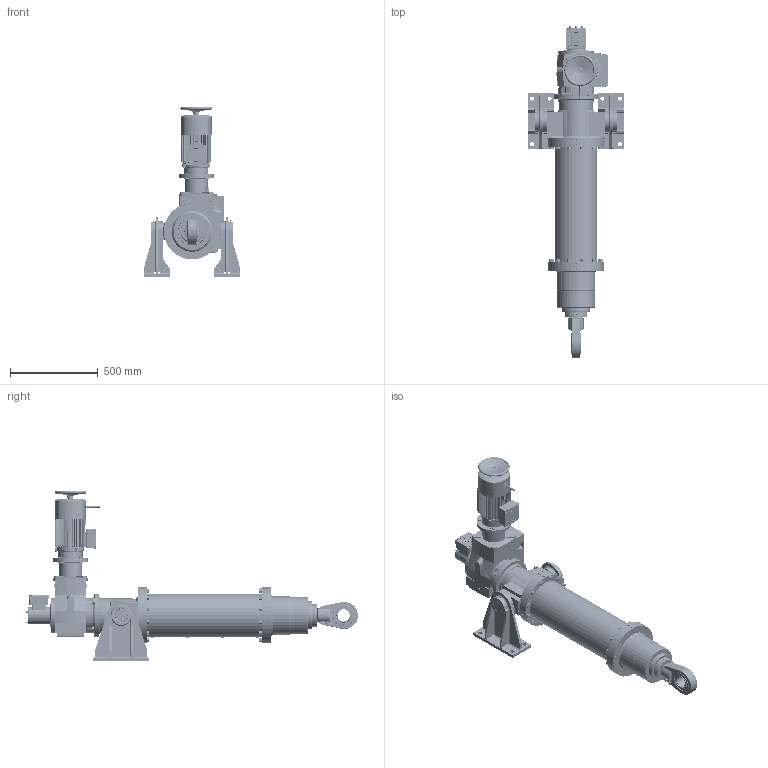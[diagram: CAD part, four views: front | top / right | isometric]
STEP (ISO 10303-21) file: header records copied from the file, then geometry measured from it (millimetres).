
FILE_DESCRIPTION( ( '153-599-4' ), '1' );
FILE_NAME( 'C:/daten/bearbeitung katalogbilder/RBs rendern/austausch pomplun/mit identnr/T1T9-0600-160-222-5.stp', 'Unknown', ( 'Christoph Hahmann' ), ( 'RACO-ELEKTRO-MASCHINEN GmbH' ), 'PSStep 17.0.49', 'Solid Edge ST 7', ' ' );
FILE_SCHEMA( ( 'AUTOMOTIVE_DESIGN { 1 0 10303 214 1 1 1 1 }' ) );
Length unit declared in the file: millimetre
Products named in the file (14): Assem1; 02.14-09-0600; 03.01-09 mit Drehzapfen; 01.15-09-0600; 01.01-09; 04.40-09-136-653-0; 03.65-09-Paar; Gehäuse A ohne Klemmenkasten; 02.01.-09 normal; RACO-Drehstrom-Bremsmotor; Klemmenkasten neue Ausf GZ; 106-834-2; 2; 05.51-09
Assembly tree (13 placements, depth 2):
  Assem1
    02.14-09-0600
    03.01-09 mit Drehzapfen
    01.15-09-0600
    01.01-09
    04.40-09-136-653-0
    03.65-09-Paar
    Gehäuse A ohne Klemmenkasten
    02.01.-09 normal
    RACO-Drehstrom-Bremsmotor
    Klemmenkasten neue Ausf GZ
    106-834-2
    2
    05.51-09
Bounding box: 550 x 1895.23 x 969.99 mm (x, y, z)
Surface area: 5058130.3 mm2 (no closed solid volume)
Topology: 0 solids, 11029 shells, 11031 faces, 62991 edges, 61386 vertices
Faces by surface type: plane 6742, cylinder 2279, cone 697, torus 599, bspline 478, sphere 184, extrusion 52
Full cylindrical faces by diameter (mm): 0.5 x6, 1.6 x2, 2.459 x24, 3 x4, 3.242 x24, 3.4 x1, 3.5 x4, 4 x9, 4.02 x8, 4.134 x32, 4.6 x1, 4.72 x4, 4.773 x6, 4.917 x8, 5 x22, 5.3 x17, 5.5 x10, 5.7 x3, 6 x19, 6.5 x2, 6.647 x1, 6.917 x6, 7 x10, 7.33 x2, 7.49 x14, 7.5 x18, 8 x3, 8.16 x8, 8.376 x17, 8.38 x4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
Entity records: 774387 total; most frequent: CARTESIAN_POINT 225259, DIRECTION 101218, VERTEX_POINT 60732, ORIENTED_EDGE 60616, EDGE_CURVE 60616, VECTOR 34682, LINE 34630, AXIS2_PLACEMENT_3D 33268
